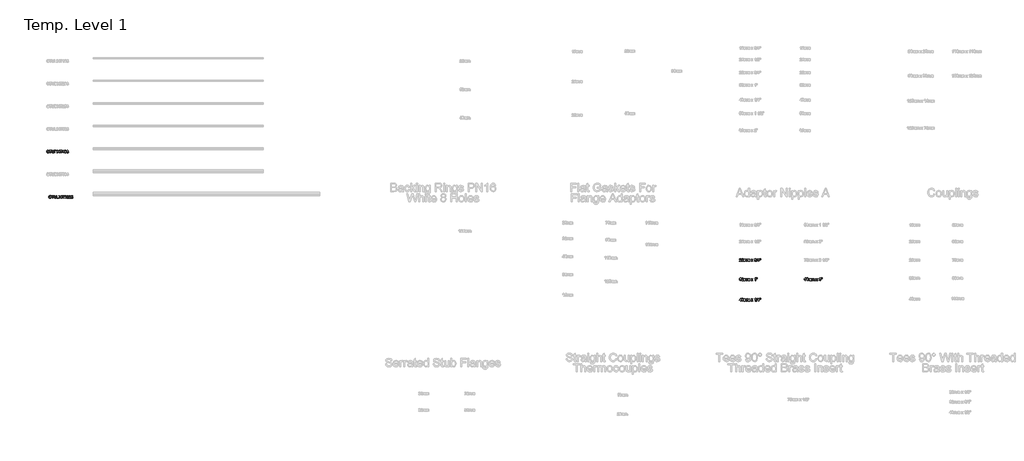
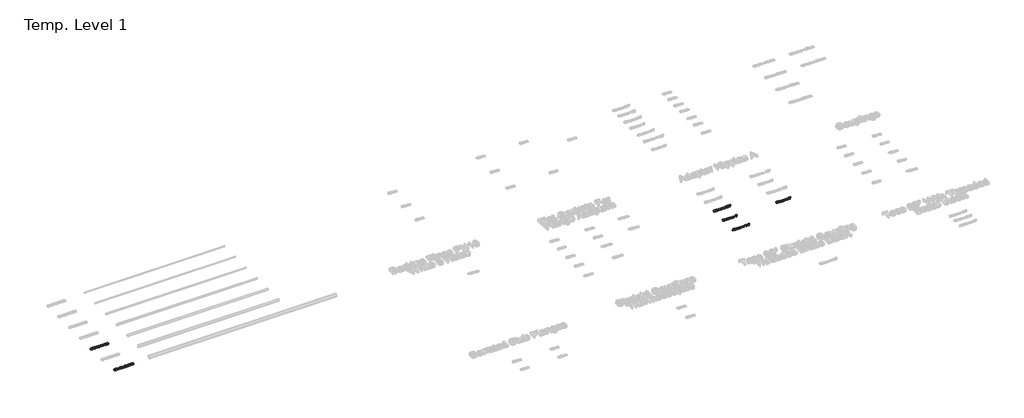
# One storey, part 6 of 62: 6 proxies.
"""IFC4 building model written with IfcOpenShell, lengths in millimetres."""

import ifcopenshell
import ifcopenshell.guid

model = None  # the IFC model being written
_history = None  # IfcOwnerHistory: only IFC2X3 demands one
_inside = {}  # id of a spatial element -> (the spatial element, [elements in it])
_under = {}  # id of a project, library or spatial element -> (it, [spatial elements below it])
_declared = {}  # id of a project -> (the project, [libraries it declares])
_typed = {}  # id of a type object -> (the type object, [elements of that type])
_made_of = {}  # id of a material, layer set ... -> (it, [elements and type objects made of it])


def new_model(schema):
    """Start an empty IFC model of exactly this schema.

    Asked for "IFC4X3", IfcOpenShell would pick the latest addendum, in which some entities
    have other attributes; the version numbers below select the first issue.
    IFC2X3 requires an IfcOwnerHistory on every rooted entity: one is made here for all.
    """
    global model, _history
    if schema == "IFC4X3":
        model = ifcopenshell.file(schema_version=(4, 3, 0, 0))
    else:
        model = ifcopenshell.file(schema=schema)
    _inside.clear()
    _under.clear()
    _declared.clear()
    _typed.clear()
    _made_of.clear()
    _history = None
    if model.schema == "IFC2X3":
        org = make("IfcOrganization", Name="unknown")
        user = make(
            "IfcPersonAndOrganization",
            ThePerson=make("IfcPerson", FamilyName="unknown"),
            TheOrganization=org,
        )
        app = make(
            "IfcApplication",
            ApplicationDeveloper=org,
            Version="unknown",
            ApplicationFullName="unknown",
            ApplicationIdentifier="unknown",
        )
        _history = make(
            "IfcOwnerHistory",
            OwningUser=user,
            OwningApplication=app,
            ChangeAction="ADDED",
            CreationDate=0,
        )
    return model


def make(cls, **values):
    """One entity of the class cls with the attributes given. An attribute that is None is left unset."""
    return model.create_entity(
        cls, **{name: value for name, value in values.items() if value is not None}
    )


def rooted(cls, **values):
    """An entity with a GlobalId (a new one), such as an element, a storey or a relation."""
    return make(cls, GlobalId=ifcopenshell.guid.new(), OwnerHistory=_history, **values)


def si_unit(unit_type, name, prefix=None):
    """IfcSIUnit, for example si_unit("LENGTHUNIT", "METRE", prefix="MILLI")."""
    return make("IfcSIUnit", UnitType=unit_type, Prefix=prefix, Name=name)


def assignment(units):
    """IfcUnitAssignment: the units of a project."""
    return None if units is None else make("IfcUnitAssignment", Units=units)


def point(xyz):
    """IfcCartesianPoint."""
    return None if xyz is None else make("IfcCartesianPoint", Coordinates=xyz)


def direction(xyz):
    """IfcDirection."""
    return None if xyz is None else make("IfcDirection", DirectionRatios=xyz)


def frame(location, z_axis=None, x_axis=None):
    """IfcAxis2Placement3D, a coordinate frame: its origin and axes. An axis left out is left unset."""
    return make(
        "IfcAxis2Placement3D",
        Location=point(location),
        Axis=direction(z_axis),
        RefDirection=direction(x_axis),
    )


def origin():
    """The frame at (0, 0, 0) with its axes left unset."""
    return frame((0.0, 0.0, 0.0))


def origin_with_axes():
    """The frame at (0, 0, 0) with the z axis (0, 0, 1) and the x axis (1, 0, 0) written out."""
    return frame((0.0, 0.0, 0.0), z_axis=(0.0, 0.0, 1.0), x_axis=(1.0, 0.0, 0.0))


def place(relative_to, where):
    """IfcLocalPlacement: puts the frame where relative to a parent placement (None: the world)."""
    return make(
        "IfcLocalPlacement", PlacementRelTo=relative_to, RelativePlacement=where
    )


def context(
    kind, dimensions, precision=None, world=None, true_north=None, identifier=None
):
    """IfcGeometricRepresentationContext, for example the 3D "Model" context."""
    return make(
        "IfcGeometricRepresentationContext",
        ContextIdentifier=identifier,
        ContextType=kind,
        CoordinateSpaceDimension=dimensions,
        Precision=precision,
        WorldCoordinateSystem=world,
        TrueNorth=true_north,
    )


def project(units=None, contexts=None):
    """IfcProject with its units and contexts."""
    return rooted(
        "IfcProject",
        Name="project",
        RepresentationContexts=contexts,
        UnitsInContext=assignment(units),
    )


def spatial(cls, under=None, at=None, **own):
    """A site, building, storey or space (cls), placed at a placement, below another one or the project."""
    s = rooted(cls, ObjectPlacement=at, **own)
    if under is not None:
        _under.setdefault(under.id(), (under, []))[1].append(s)
    return s


def polyline(points):
    """IfcPolyline through the points."""
    return make("IfcPolyline", Points=[point(p) for p in points])


def outline(outer, holes=None, kind="AREA"):
    """IfcArbitraryClosedProfileDef: a profile drawn as a closed curve; with holes, ...WithVoids."""
    if holes is None:
        return make("IfcArbitraryClosedProfileDef", ProfileType=kind, OuterCurve=outer)
    return make(
        "IfcArbitraryProfileDefWithVoids",
        ProfileType=kind,
        OuterCurve=outer,
        InnerCurves=holes,
    )


def extrude(swept, where, along, depth):
    """IfcExtrudedAreaSolid: the profile swept, set in the frame where, extruded along a direction by depth."""
    return make(
        "IfcExtrudedAreaSolid",
        SweptArea=swept,
        Position=where,
        ExtrudedDirection=direction(along),
        Depth=depth,
    )


def shape(context_of_items, identifier, shape_type, items):
    """IfcShapeRepresentation: the items that make up one representation, for example the "Body"."""
    return make(
        "IfcShapeRepresentation",
        ContextOfItems=context_of_items,
        RepresentationIdentifier=identifier,
        RepresentationType=shape_type,
        Items=items,
    )


def made_of(thing, what):
    """Note that an element or type object is made of a material, layer set ...; save() writes the relation."""
    if what is not None:
        _made_of.setdefault(what.id(), (what, []))[1].append(thing)
    return thing


def element(
    cls,
    number,
    at=None,
    inside=None,
    cuts=None,
    type_object=None,
    material=None,
    context=None,
    identifier="Body",
    shape_type=None,
    held_by="IfcProductDefinitionShape",
    body=None,
    shapes=None,
    **own,
):
    """One element of the class cls, such as IfcWall. Its Tag is "e" and its number.

    at: its placement. inside: the storey or other place that contains it. cuts: it is an
    opening in that element (IfcRelVoidsElement). A single representation is given by context,
    identifier, shape_type and body (its items); several are given by shapes. held_by: the class
    of the entity that holds the representations. save() writes the other relations.
    """
    e = rooted(cls, Tag="e%d" % number, ObjectPlacement=at, **own)
    if body is not None:
        shapes = [shape(context, identifier, shape_type, body)]
    if shapes is not None:
        e.Representation = make(held_by, Representations=shapes)
    if inside is not None:
        _inside.setdefault(inside.id(), (inside, []))[1].append(e)
    if cuts is not None:
        rooted(
            "IfcRelVoidsElement", RelatingBuildingElement=cuts, RelatedOpeningElement=e
        )
    if type_object is not None:
        _typed.setdefault(type_object.id(), (type_object, []))[1].append(e)
    return made_of(e, material)


def aggregate(whole, parts):
    """IfcRelAggregates: a whole, such as a stair, and the parts it consists of."""
    return rooted("IfcRelAggregates", RelatingObject=whole, RelatedObjects=parts)


def save(model, path):
    """Write the relations noted so far, then the file.

    IfcRelAggregates (storeys below a building ...), IfcRelContainedInSpatialStructure (elements
    in a storey), IfcRelDefinesByType, IfcRelAssociatesMaterial and IfcRelDeclares: one each for
    every whole, place, type object, material and project.
    """
    for whole, parts in _under.values():
        aggregate(whole, parts)
    for where, things in _inside.values():
        rooted(
            "IfcRelContainedInSpatialStructure",
            RelatedElements=things,
            RelatingStructure=where,
        )
    for kind, things in _typed.values():
        rooted("IfcRelDefinesByType", RelatedObjects=things, RelatingType=kind)
    for what, things in _made_of.values():
        rooted("IfcRelAssociatesMaterial", RelatedObjects=things, RelatingMaterial=what)
    for by, libraries in _declared.values():
        rooted("IfcRelDeclares", RelatingContext=by, RelatedDefinitions=libraries)
    model.write(path)


model = new_model("IFC4")

# Units and contexts
model_context = context("Model", 3, world=origin())
ifc_project = project(units=[si_unit("LENGTHUNIT", "METRE", prefix="MILLI")], contexts=[model_context])

# Site, building, storey
site = spatial("IfcSite", under=ifc_project)
building = spatial("IfcBuilding", under=site)
storey = spatial("IfcBuildingStorey", under=building, Name="Temp. Level 1", Elevation=0.0)

# Proxies
placement = place(None, origin())
element("IfcBuildingElementProxy", 1, Name="50mm Arial", ObjectType="50mm Arial", at=placement, inside=storey, context=model_context, shape_type="SweptSolid", body=[
    extrude(outline(polyline([(14682.7136124, -8204.0446709), (14682.7136124, -8210.198517), (14650.4059201, -8210.198517), (14651.0669778, -8205.9557286), (14654.8049586, -8199.4232766), (14662.5092855, -8192.2898632), (14673.1342855, -8182.0374593), (14675.7905355, -8175.0663055), (14673.2845259, -8169.4232766), (14666.7400547, -8167.1215939), (14659.9191413, -8169.3691901), (14657.3289971, -8175.5831324), (14651.1751509, -8174.8139016), (14655.892699, -8164.5134209), (14666.8722663, -8160.9677478), (14677.8878913, -8164.9100555), (14681.9443817, -8174.6937093), (14680.8506317, -8180.5290459), (14677.2148144, -8186.5626997), (14668.3987086, -8194.9941901), (14661.3193817, -8200.9136612), (14658.5429394, -8204.0446709), (14682.7136124, -8204.0446709)])), origin_with_axes(), (0.0, 0.0, 1.0), 15.0),
    extrude(outline(polyline([(14688.8674586, -8197.1215939), (14695.0213047, -8196.3523632), (14698.1222663, -8202.6925074), (14704.5525547, -8204.8139016), (14712.2689009, -8201.8631805), (14715.0213047, -8194.0326516), (14712.4431797, -8186.7249593), (14704.6487086, -8184.0446709), (14699.2460644, -8185.1143824), (14695.7905355, -8187.8908247), (14689.6366894, -8187.1215939), (14695.0213047, -8161.7369786), (14718.8674586, -8161.7369786), (14718.8674586, -8167.8908247), (14699.9972663, -8167.8908247), (14697.3650547, -8181.448517), (14706.3674586, -8177.8908247), (14716.8902951, -8182.3018824), (14721.1751509, -8193.6480362), (14717.3169778, -8205.0663055), (14711.7761124, -8209.4923872), (14704.5285163, -8210.9677478), (14693.6691413, -8207.1756805), (14688.8674586, -8197.1215939)])), origin_with_axes(), (0.0, 0.0, 1.0), 15.0),
    extrude(outline(polyline([(14728.0982278, -8210.198517), (14728.0982278, -8174.0446709), (14734.252074, -8174.0446709), (14734.252074, -8179.9941901), (14738.4828432, -8175.120392), (14744.5044778, -8173.2754401), (14750.6703432, -8175.1564497), (14754.0597663, -8180.4268824), (14758.861449, -8175.0633007), (14764.9251509, -8173.2754401), (14772.9720259, -8176.2501997), (14775.7905355, -8185.4148632), (14775.7905355, -8210.198517), (14769.6366894, -8210.198517), (14769.6366894, -8188.0590939), (14769.0657759, -8182.9208728), (14766.9984682, -8180.3908247), (14763.4828432, -8179.4292862), (14757.4311605, -8181.8932286), (14755.0213047, -8189.7898632), (14755.0213047, -8210.198517), (14748.8674586, -8210.198517), (14748.8674586, -8187.3739978), (14747.4431797, -8181.4124593), (14742.7737086, -8179.4292862), (14738.2184201, -8180.7514016), (14735.189574, -8184.6215939), (14734.252074, -8191.9653439), (14734.252074, -8210.198517), (14728.0982278, -8210.198517)])), origin_with_axes(), (0.0, 0.0, 1.0), 15.0),
    extrude(outline(polyline([(14785.0213047, -8210.198517), (14785.0213047, -8174.0446709), (14791.1751509, -8174.0446709), (14791.1751509, -8179.9941901), (14795.4059201, -8175.120392), (14801.4275547, -8173.2754401), (14807.5934201, -8175.1564497), (14810.9828432, -8180.4268824), (14815.7845259, -8175.0633007), (14821.8482278, -8173.2754401), (14829.8951028, -8176.2501997), (14832.7136124, -8185.4148632), (14832.7136124, -8210.198517), (14826.5597663, -8210.198517), (14826.5597663, -8188.0590939), (14825.9888528, -8182.9208728), (14823.9215451, -8180.3908247), (14820.4059201, -8179.4292862), (14814.3542374, -8181.8932286), (14811.9443817, -8189.7898632), (14811.9443817, -8210.198517), (14805.7905355, -8210.198517), (14805.7905355, -8187.3739978), (14804.3662567, -8181.4124593), (14799.6967855, -8179.4292862), (14795.1414971, -8180.7514016), (14792.1126509, -8184.6215939), (14791.1751509, -8191.9653439), (14791.1751509, -8210.198517), (14785.0213047, -8210.198517)])), origin_with_axes(), (0.0, 0.0, 1.0), 15.0),
    extrude(outline(polyline([(14857.3289971, -8210.198517), (14870.4780355, -8192.0254401), (14858.0982278, -8174.0446709), (14865.502074, -8174.0446709), (14871.4756317, -8182.698517), (14874.2640932, -8186.7850555), (14876.6799586, -8183.4437093), (14883.4828432, -8174.0446709), (14890.8866894, -8174.0446709), (14877.8818817, -8192.0254401), (14890.4059201, -8210.198517), (14883.002074, -8210.198517), (14875.4660163, -8199.2730362), (14874.0838047, -8197.2778439), (14864.7328432, -8210.198517), (14857.3289971, -8210.198517)])), origin_with_axes(), (0.0, 0.0, 1.0), 15.0),
    extrude(outline(polyline([(14913.4828432, -8197.1215939), (14919.6366894, -8196.3523632), (14923.0321221, -8202.8307286), (14929.3842855, -8204.8139016), (14936.8602471, -8202.0855362), (14939.6366894, -8195.3307286), (14936.8842855, -8188.9665459), (14929.8890932, -8186.448517), (14925.5741894, -8187.1215939), (14926.2592855, -8180.9677478), (14934.2280355, -8179.2730362), (14937.3289971, -8173.8403439), (14935.0814009, -8169.026642), (14929.2881317, -8167.1215939), (14923.4227471, -8169.0446709), (14920.4059201, -8174.8139016), (14914.252074, -8174.0446709), (14919.2881317, -8164.3932286), (14929.0717855, -8160.9677478), (14936.4936605, -8162.6564497), (14941.6859682, -8167.2718343), (14943.4828432, -8173.479767), (14941.7761124, -8179.1528439), (14936.7280355, -8183.2273632), (14943.4347663, -8187.4340939), (14945.7905355, -8195.4389016), (14941.0789971, -8206.448517), (14929.1679394, -8210.9677478), (14918.3746701, -8207.1095747), (14913.4828432, -8197.1215939)])), origin_with_axes(), (0.0, 0.0, 1.0), 15.0),
    extrude(outline(polyline([(14948.0982278, -8210.198517), (14961.9443817, -8160.9677478), (14967.4972663, -8160.9677478), (14953.6511124, -8210.198517), (14948.0982278, -8210.198517)])), origin_with_axes(), (0.0, 0.0, 1.0), 15.0),
    extrude(outline(polyline([(14990.4059201, -8210.198517), (14990.4059201, -8198.6600555), (14968.0982278, -8198.6600555), (14968.0982278, -8192.5062093), (14991.9443817, -8161.7369786), (14996.5597663, -8161.7369786), (14996.5597663, -8192.5062093), (15002.7136124, -8192.5062093), (15002.7136124, -8198.6600555), (14996.5597663, -8198.6600555), (14996.5597663, -8210.198517), (14990.4059201, -8210.198517)]), holes=[polyline([(14990.4059201, -8192.5062093), (14990.4059201, -8173.4917862), (14975.6703432, -8192.5062093), (14990.4059201, -8192.5062093)])]), origin_with_axes(), (0.0, 0.0, 1.0), 15.0),
    extrude(outline(polyline([(15021.8722663, -8178.6600555), (15020.4059201, -8169.1528439), (15020.4059201, -8160.9677478), (15026.5597663, -8160.9677478), (15026.5597663, -8169.1528439), (15025.1174586, -8178.6600555), (15021.8722663, -8178.6600555)])), origin_with_axes(), (0.0, 0.0, 1.0), 15.0),
    extrude(outline(polyline([(15009.6006317, -8178.6600555), (15008.0982278, -8169.1528439), (15008.0982278, -8160.9677478), (15014.252074, -8160.9677478), (15014.252074, -8169.1528439), (15012.9059201, -8178.6600555), (15009.6006317, -8178.6600555)])), origin_with_axes(), (0.0, 0.0, 1.0), 15.0),
])
element("IfcBuildingElementProxy", 2, Name="50mm Arial", ObjectType="50mm Arial", at=placement, inside=storey, context=model_context, shape_type="SweptSolid", body=[
    extrude(outline(polyline([(14651.1751509, -8537.1215939), (14657.3289971, -8536.3523632), (14660.7244297, -8542.8307286), (14667.0765932, -8544.8139016), (14674.5525547, -8542.0855362), (14677.3289971, -8535.3307286), (14674.5765932, -8528.9665459), (14667.5814009, -8526.448517), (14663.2664971, -8527.1215939), (14663.9515932, -8520.9677478), (14671.9203432, -8519.2730362), (14675.0213047, -8513.8403439), (14672.7737086, -8509.026642), (14666.9804394, -8507.1215939), (14661.1150547, -8509.0446709), (14658.0982278, -8514.8139016), (14651.9443817, -8514.0446709), (14656.9804394, -8504.3932286), (14666.7640932, -8500.9677478), (14674.1859682, -8502.6564497), (14679.3782759, -8507.2718343), (14681.1751509, -8513.479767), (14679.4684201, -8519.1528439), (14674.4203432, -8523.2273632), (14681.127074, -8527.4340939), (14683.4828432, -8535.4389016), (14678.7713047, -8546.448517), (14666.8602471, -8550.9677478), (14656.0669778, -8547.1095747), (14651.1751509, -8537.1215939)])), origin_with_axes(), (0.0, 0.0, 1.0), 15.0),
    extrude(outline(polyline([(14720.4059201, -8544.0446709), (14720.4059201, -8550.198517), (14688.0982278, -8550.198517), (14688.7592855, -8545.9557286), (14692.4972663, -8539.4232766), (14700.2015932, -8532.2898632), (14710.8265932, -8522.0374593), (14713.4828432, -8515.0663055), (14710.9768336, -8509.4232766), (14704.4323624, -8507.1215939), (14697.611449, -8509.3691901), (14695.0213047, -8515.5831324), (14688.8674586, -8514.8139016), (14693.5850067, -8504.5134209), (14704.564574, -8500.9677478), (14715.580199, -8504.9100555), (14719.6366894, -8514.6937093), (14718.5429394, -8520.5290459), (14714.9071221, -8526.5626997), (14706.0910163, -8534.9941901), (14699.0116894, -8540.9136612), (14696.2352471, -8544.0446709), (14720.4059201, -8544.0446709)])), origin_with_axes(), (0.0, 0.0, 1.0), 15.0),
    extrude(outline(polyline([(14728.0982278, -8550.198517), (14728.0982278, -8514.0446709), (14734.252074, -8514.0446709), (14734.252074, -8519.9941901), (14738.4828432, -8515.120392), (14744.5044778, -8513.2754401), (14750.6703432, -8515.1564497), (14754.0597663, -8520.4268824), (14758.861449, -8515.0633007), (14764.9251509, -8513.2754401), (14772.9720259, -8516.2501997), (14775.7905355, -8525.4148632), (14775.7905355, -8550.198517), (14769.6366894, -8550.198517), (14769.6366894, -8528.0590939), (14769.0657759, -8522.9208728), (14766.9984682, -8520.3908247), (14763.4828432, -8519.4292862), (14757.4311605, -8521.8932286), (14755.0213047, -8529.7898632), (14755.0213047, -8550.198517), (14748.8674586, -8550.198517), (14748.8674586, -8527.3739978), (14747.4431797, -8521.4124593), (14742.7737086, -8519.4292862), (14738.2184201, -8520.7514016), (14735.189574, -8524.6215939), (14734.252074, -8531.9653439), (14734.252074, -8550.198517), (14728.0982278, -8550.198517)])), origin_with_axes(), (0.0, 0.0, 1.0), 15.0),
    extrude(outline(polyline([(14785.0213047, -8550.198517), (14785.0213047, -8514.0446709), (14791.1751509, -8514.0446709), (14791.1751509, -8519.9941901), (14795.4059201, -8515.120392), (14801.4275547, -8513.2754401), (14807.5934201, -8515.1564497), (14810.9828432, -8520.4268824), (14815.7845259, -8515.0633007), (14821.8482278, -8513.2754401), (14829.8951028, -8516.2501997), (14832.7136124, -8525.4148632), (14832.7136124, -8550.198517), (14826.5597663, -8550.198517), (14826.5597663, -8528.0590939), (14825.9888528, -8522.9208728), (14823.9215451, -8520.3908247), (14820.4059201, -8519.4292862), (14814.3542374, -8521.8932286), (14811.9443817, -8529.7898632), (14811.9443817, -8550.198517), (14805.7905355, -8550.198517), (14805.7905355, -8527.3739978), (14804.3662567, -8521.4124593), (14799.6967855, -8519.4292862), (14795.1414971, -8520.7514016), (14792.1126509, -8524.6215939), (14791.1751509, -8531.9653439), (14791.1751509, -8550.198517), (14785.0213047, -8550.198517)])), origin_with_axes(), (0.0, 0.0, 1.0), 15.0),
    extrude(outline(polyline([(14857.3289971, -8550.198517), (14870.4780355, -8532.0254401), (14858.0982278, -8514.0446709), (14865.502074, -8514.0446709), (14871.4756317, -8522.698517), (14874.2640932, -8526.7850555), (14876.6799586, -8523.4437093), (14883.4828432, -8514.0446709), (14890.8866894, -8514.0446709), (14877.8818817, -8532.0254401), (14890.4059201, -8550.198517), (14883.002074, -8550.198517), (14875.4660163, -8539.2730362), (14874.0838047, -8537.2778439), (14864.7328432, -8550.198517), (14857.3289971, -8550.198517)])), origin_with_axes(), (0.0, 0.0, 1.0), 15.0),
    extrude(outline(polyline([(14936.5597663, -8550.198517), (14930.4059201, -8550.198517), (14930.4059201, -8511.8331324), (14924.5765932, -8515.9857766), (14918.0982278, -8519.0927478), (14918.0982278, -8513.2754401), (14927.1186605, -8507.5182286), (14932.5934201, -8500.9677478), (14936.5597663, -8500.9677478), (14936.5597663, -8550.198517)])), origin_with_axes(), (0.0, 0.0, 1.0), 15.0),
    extrude(outline(polyline([(14952.6775547, -8518.6600555), (14951.1751509, -8509.1528439), (14951.1751509, -8500.9677478), (14957.3289971, -8500.9677478), (14957.3289971, -8509.1528439), (14955.9828432, -8518.6600555), (14952.6775547, -8518.6600555)])), origin_with_axes(), (0.0, 0.0, 1.0), 15.0),
    extrude(outline(polyline([(14964.9491894, -8518.6600555), (14963.4828432, -8509.1528439), (14963.4828432, -8500.9677478), (14969.6366894, -8500.9677478), (14969.6366894, -8509.1528439), (14968.1943817, -8518.6600555), (14964.9491894, -8518.6600555)])), origin_with_axes(), (0.0, 0.0, 1.0), 15.0),
])
element("IfcBuildingElementProxy", 3, Name="50mm Arial", ObjectType="50mm Arial", at=placement, inside=storey, context=model_context, shape_type="SweptSolid", body=[
    extrude(outline(polyline([(14671.1751509, -8910.198517), (14671.1751509, -8898.6600555), (14648.8674586, -8898.6600555), (14648.8674586, -8892.5062093), (14672.7136124, -8861.7369786), (14677.3289971, -8861.7369786), (14677.3289971, -8892.5062093), (14683.4828432, -8892.5062093), (14683.4828432, -8898.6600555), (14677.3289971, -8898.6600555), (14677.3289971, -8910.198517), (14671.1751509, -8910.198517)]), holes=[polyline([(14671.1751509, -8892.5062093), (14671.1751509, -8873.4917862), (14656.439574, -8892.5062093), (14671.1751509, -8892.5062093)])]), origin_with_axes(), (0.0, 0.0, 1.0), 15.0),
    extrude(outline(polyline([(14688.8674586, -8885.979767), (14690.6763528, -8871.8151036), (14696.048949, -8863.6480362), (14705.0213047, -8860.9677478), (14712.2088047, -8862.5542862), (14717.1727471, -8867.1276036), (14720.0573624, -8874.4112574), (14721.1751509, -8885.979767), (14719.3842855, -8900.0843343), (14714.0297182, -8908.2694305), (14705.0213047, -8910.9677478), (14693.7713047, -8906.2802478), (14690.0934201, -8897.9539257), (14688.8674586, -8885.979767)]), holes=[polyline([(14695.0213047, -8885.9677478), (14697.9059201, -8901.2501997), (14705.0213047, -8904.8139016), (14712.1366894, -8901.2381805), (14715.0213047, -8885.9677478), (14712.2328432, -8870.8595747), (14704.9491894, -8867.1215939), (14698.002074, -8870.4148632), (14695.0213047, -8885.9677478)])]), origin_with_axes(), (0.0, 0.0, 1.0), 15.0),
    extrude(outline(polyline([(14728.0982278, -8910.198517), (14728.0982278, -8874.0446709), (14734.252074, -8874.0446709), (14734.252074, -8879.9941901), (14738.4828432, -8875.120392), (14744.5044778, -8873.2754401), (14750.6703432, -8875.1564497), (14754.0597663, -8880.4268824), (14758.861449, -8875.0633007), (14764.9251509, -8873.2754401), (14772.9720259, -8876.2501997), (14775.7905355, -8885.4148632), (14775.7905355, -8910.198517), (14769.6366894, -8910.198517), (14769.6366894, -8888.0590939), (14769.0657759, -8882.9208728), (14766.9984682, -8880.3908247), (14763.4828432, -8879.4292862), (14757.4311605, -8881.8932286), (14755.0213047, -8889.7898632), (14755.0213047, -8910.198517), (14748.8674586, -8910.198517), (14748.8674586, -8887.3739978), (14747.4431797, -8881.4124593), (14742.7737086, -8879.4292862), (14738.2184201, -8880.7514016), (14735.189574, -8884.6215939), (14734.252074, -8891.9653439), (14734.252074, -8910.198517), (14728.0982278, -8910.198517)])), origin_with_axes(), (0.0, 0.0, 1.0), 15.0),
    extrude(outline(polyline([(14785.0213047, -8910.198517), (14785.0213047, -8874.0446709), (14791.1751509, -8874.0446709), (14791.1751509, -8879.9941901), (14795.4059201, -8875.120392), (14801.4275547, -8873.2754401), (14807.5934201, -8875.1564497), (14810.9828432, -8880.4268824), (14815.7845259, -8875.0633007), (14821.8482278, -8873.2754401), (14829.8951028, -8876.2501997), (14832.7136124, -8885.4148632), (14832.7136124, -8910.198517), (14826.5597663, -8910.198517), (14826.5597663, -8888.0590939), (14825.9888528, -8882.9208728), (14823.9215451, -8880.3908247), (14820.4059201, -8879.4292862), (14814.3542374, -8881.8932286), (14811.9443817, -8889.7898632), (14811.9443817, -8910.198517), (14805.7905355, -8910.198517), (14805.7905355, -8887.3739978), (14804.3662567, -8881.4124593), (14799.6967855, -8879.4292862), (14795.1414971, -8880.7514016), (14792.1126509, -8884.6215939), (14791.1751509, -8891.9653439), (14791.1751509, -8910.198517), (14785.0213047, -8910.198517)])), origin_with_axes(), (0.0, 0.0, 1.0), 15.0),
    extrude(outline(polyline([(14857.3289971, -8910.198517), (14870.4780355, -8892.0254401), (14858.0982278, -8874.0446709), (14865.502074, -8874.0446709), (14871.4756317, -8882.698517), (14874.2640932, -8886.7850555), (14876.6799586, -8883.4437093), (14883.4828432, -8874.0446709), (14890.8866894, -8874.0446709), (14877.8818817, -8892.0254401), (14890.4059201, -8910.198517), (14883.002074, -8910.198517), (14875.4660163, -8899.2730362), (14874.0838047, -8897.2778439), (14864.7328432, -8910.198517), (14857.3289971, -8910.198517)])), origin_with_axes(), (0.0, 0.0, 1.0), 15.0),
    extrude(outline(polyline([(14936.5597663, -8910.198517), (14930.4059201, -8910.198517), (14930.4059201, -8871.8331324), (14924.5765932, -8875.9857766), (14918.0982278, -8879.0927478), (14918.0982278, -8873.2754401), (14927.1186605, -8867.5182286), (14932.5934201, -8860.9677478), (14936.5597663, -8860.9677478), (14936.5597663, -8910.198517)])), origin_with_axes(), (0.0, 0.0, 1.0), 15.0),
    extrude(outline(polyline([(14948.0982278, -8910.198517), (14961.9443817, -8860.9677478), (14967.4972663, -8860.9677478), (14953.6511124, -8910.198517), (14948.0982278, -8910.198517)])), origin_with_axes(), (0.0, 0.0, 1.0), 15.0),
    extrude(outline(polyline([(14990.4059201, -8910.198517), (14990.4059201, -8898.6600555), (14968.0982278, -8898.6600555), (14968.0982278, -8892.5062093), (14991.9443817, -8861.7369786), (14996.5597663, -8861.7369786), (14996.5597663, -8892.5062093), (15002.7136124, -8892.5062093), (15002.7136124, -8898.6600555), (14996.5597663, -8898.6600555), (14996.5597663, -8910.198517), (14990.4059201, -8910.198517)]), holes=[polyline([(14990.4059201, -8892.5062093), (14990.4059201, -8873.4917862), (14975.6703432, -8892.5062093), (14990.4059201, -8892.5062093)])]), origin_with_axes(), (0.0, 0.0, 1.0), 15.0),
    extrude(outline(polyline([(15021.8722663, -8878.6600555), (15020.4059201, -8869.1528439), (15020.4059201, -8860.9677478), (15026.5597663, -8860.9677478), (15026.5597663, -8869.1528439), (15025.1174586, -8878.6600555), (15021.8722663, -8878.6600555)])), origin_with_axes(), (0.0, 0.0, 1.0), 15.0),
    extrude(outline(polyline([(15009.6006317, -8878.6600555), (15008.0982278, -8869.1528439), (15008.0982278, -8860.9677478), (15014.252074, -8860.9677478), (15014.252074, -8869.1528439), (15012.9059201, -8878.6600555), (15009.6006317, -8878.6600555)])), origin_with_axes(), (0.0, 0.0, 1.0), 15.0),
])
element("IfcBuildingElementProxy", 4, Name="50mm Arial", ObjectType="50mm Arial", at=placement, inside=storey, context=model_context, shape_type="SweptSolid", body=[
    extrude(outline(polyline([(15796.5700795, -8537.8908247), (15802.7239256, -8537.1215939), (15805.4883487, -8542.9929882), (15810.7287333, -8544.8139016), (15815.7107045, -8543.6420266), (15819.0881083, -8540.511017), (15821.1013295, -8535.1624593), (15821.9907525, -8528.0230362), (15817.0328198, -8531.4845747), (15810.2840218, -8533.2754401), (15800.0015698, -8528.9004401), (15795.8008487, -8517.3739978), (15800.2058968, -8505.4749593), (15811.2455602, -8500.9677478), (15820.0135891, -8503.5398632), (15826.0472429, -8510.8715939), (15828.108541, -8524.6456324), (15826.0532525, -8539.5915459), (15819.9414737, -8548.0590939), (15810.4402718, -8550.9677478), (15800.9811371, -8547.5362574), (15796.5700795, -8537.8908247)]), holes=[polyline([(15821.9546948, -8517.229767), (15819.2984448, -8509.8499593), (15812.2431564, -8507.1215939), (15804.8393102, -8510.0602959), (15801.9546948, -8517.6744786), (15804.6830602, -8524.495392), (15812.0748871, -8527.1215939), (15819.1722429, -8524.495392), (15821.9546948, -8517.229767)])]), origin_with_axes(), (0.0, 0.0, 1.0), 15.0),
    extrude(outline(polyline([(15833.4931564, -8525.979767), (15835.3020506, -8511.8151036), (15840.6746468, -8503.6480362), (15849.6470025, -8500.9677478), (15856.8345025, -8502.5542862), (15861.7984448, -8507.1276036), (15864.6830602, -8514.4112574), (15865.8008487, -8525.979767), (15864.0099833, -8540.0843343), (15858.655416, -8548.2694305), (15849.6470025, -8550.9677478), (15838.3970025, -8546.2802478), (15834.7191179, -8537.9539257), (15833.4931564, -8525.979767)]), holes=[polyline([(15839.6470025, -8525.9677478), (15842.5316179, -8541.2501997), (15849.6470025, -8544.8139016), (15856.7623871, -8541.2381805), (15859.6470025, -8525.9677478), (15856.858541, -8510.8595747), (15849.5748871, -8507.1215939), (15842.6277718, -8510.4148632), (15839.6470025, -8525.9677478)])]), origin_with_axes(), (0.0, 0.0, 1.0), 15.0),
    extrude(outline(polyline([(15872.7239256, -8550.198517), (15872.7239256, -8514.0446709), (15878.8777718, -8514.0446709), (15878.8777718, -8519.9941901), (15883.108541, -8515.120392), (15889.1301756, -8513.2754401), (15895.296041, -8515.1564497), (15898.6854641, -8520.4268824), (15903.4871468, -8515.0633007), (15909.5508487, -8513.2754401), (15917.5977237, -8516.2501997), (15920.4162333, -8525.4148632), (15920.4162333, -8550.198517), (15914.2623871, -8550.198517), (15914.2623871, -8528.0590939), (15913.6914737, -8522.9208728), (15911.624166, -8520.3908247), (15908.108541, -8519.4292862), (15902.0568583, -8521.8932286), (15899.6470025, -8529.7898632), (15899.6470025, -8550.198517), (15893.4931564, -8550.198517), (15893.4931564, -8527.3739978), (15892.0688775, -8521.4124593), (15887.3994064, -8519.4292862), (15882.8441179, -8520.7514016), (15879.8152718, -8524.6215939), (15878.8777718, -8531.9653439), (15878.8777718, -8550.198517), (15872.7239256, -8550.198517)])), origin_with_axes(), (0.0, 0.0, 1.0), 15.0),
    extrude(outline(polyline([(15929.6470025, -8550.198517), (15929.6470025, -8514.0446709), (15935.8008487, -8514.0446709), (15935.8008487, -8519.9941901), (15940.0316179, -8515.120392), (15946.0532525, -8513.2754401), (15952.2191179, -8515.1564497), (15955.608541, -8520.4268824), (15960.4102237, -8515.0633007), (15966.4739256, -8513.2754401), (15974.5208006, -8516.2501997), (15977.3393102, -8525.4148632), (15977.3393102, -8550.198517), (15971.1854641, -8550.198517), (15971.1854641, -8528.0590939), (15970.6145506, -8522.9208728), (15968.5472429, -8520.3908247), (15965.0316179, -8519.4292862), (15958.9799352, -8521.8932286), (15956.5700795, -8529.7898632), (15956.5700795, -8550.198517), (15950.4162333, -8550.198517), (15950.4162333, -8527.3739978), (15948.9919545, -8521.4124593), (15944.3224833, -8519.4292862), (15939.7671948, -8520.7514016), (15936.7383487, -8524.6215939), (15935.8008487, -8531.9653439), (15935.8008487, -8550.198517), (15929.6470025, -8550.198517)])), origin_with_axes(), (0.0, 0.0, 1.0), 15.0),
    extrude(outline(polyline([(16001.9546948, -8550.198517), (16015.1037333, -8532.0254401), (16002.7239256, -8514.0446709), (16010.1277718, -8514.0446709), (16016.1013295, -8522.698517), (16018.889791, -8526.7850555), (16021.3056564, -8523.4437093), (16028.108541, -8514.0446709), (16035.5123871, -8514.0446709), (16022.5075795, -8532.0254401), (16035.0316179, -8550.198517), (16027.6277718, -8550.198517), (16020.0917141, -8539.2730362), (16018.7095025, -8537.2778439), (16009.358541, -8550.198517), (16001.9546948, -8550.198517)])), origin_with_axes(), (0.0, 0.0, 1.0), 15.0),
    extrude(outline(polyline([(16058.108541, -8537.1215939), (16064.2623871, -8536.3523632), (16067.6578198, -8542.8307286), (16074.0099833, -8544.8139016), (16081.4859448, -8542.0855362), (16084.2623871, -8535.3307286), (16081.5099833, -8528.9665459), (16074.514791, -8526.448517), (16070.1998871, -8527.1215939), (16070.8849833, -8520.9677478), (16078.8537333, -8519.2730362), (16081.9546948, -8513.8403439), (16079.7070987, -8509.026642), (16073.9138295, -8507.1215939), (16068.0484448, -8509.0446709), (16065.0316179, -8514.8139016), (16058.8777718, -8514.0446709), (16063.9138295, -8504.3932286), (16073.6974833, -8500.9677478), (16081.1193583, -8502.6564497), (16086.311666, -8507.2718343), (16088.108541, -8513.479767), (16086.4018102, -8519.1528439), (16081.3537333, -8523.2273632), (16088.0604641, -8527.4340939), (16090.4162333, -8535.4389016), (16085.7046948, -8546.448517), (16073.7936371, -8550.9677478), (16063.0003679, -8547.1095747), (16058.108541, -8537.1215939)])), origin_with_axes(), (0.0, 0.0, 1.0), 15.0),
    extrude(outline(polyline([(16097.3032525, -8518.6600555), (16095.8008487, -8509.1528439), (16095.8008487, -8500.9677478), (16101.9546948, -8500.9677478), (16101.9546948, -8509.1528439), (16100.608541, -8518.6600555), (16097.3032525, -8518.6600555)])), origin_with_axes(), (0.0, 0.0, 1.0), 15.0),
    extrude(outline(polyline([(16109.5748871, -8518.6600555), (16108.108541, -8509.1528439), (16108.108541, -8500.9677478), (16114.2623871, -8500.9677478), (16114.2623871, -8509.1528439), (16112.8200795, -8518.6600555), (16109.5748871, -8518.6600555)])), origin_with_axes(), (0.0, 0.0, 1.0), 15.0),
])
element("IfcBuildingElementProxy", 5, Name="50mm Arial", ObjectType="50mm Arial", at=placement, inside=storey, context=model_context, shape_type="SweptSolid", body=[
    extrude(outline(polyline([(2446.7141386, -6278.4984888), (2446.7141386, -6272.3446426), (2466.7141386, -6272.3446426), (2466.7141386, -6290.7460849), (2456.8403406, -6296.5513734), (2446.4016386, -6298.4984888), (2433.2586098, -6295.4035368), (2424.3403406, -6286.4432003), (2421.3295233, -6273.354258), (2424.3283213, -6259.9708445), (2432.9521194, -6250.7460849), (2445.9088502, -6247.729258), (2455.536254, -6249.4780561), (2462.2850521, -6254.3458445), (2466.005004, -6262.4888734), (2460.3319271, -6264.0874311), (2457.5254367, -6258.3963253), (2452.7297636, -6255.1150753), (2445.8126963, -6253.8831042), (2437.9340906, -6255.2112292), (2432.5735136, -6258.6968061), (2429.4064463, -6263.4383926), (2427.4833694, -6273.1018542), (2429.7970713, -6283.8290176), (2436.5278406, -6290.2472868), (2445.9088502, -6292.3446426), (2454.3283213, -6290.7641138), (2460.5602925, -6287.3927195), (2460.5602925, -6278.4984888), (2446.7141386, -6278.4984888)])), origin_with_axes(), (0.0, 0.0, 1.0), 15.0),
    extrude(outline(polyline([(2489.0218309, -6297.729258), (2489.0218309, -6254.6523349), (2472.8679848, -6254.6523349), (2472.8679848, -6248.4984888), (2511.3295233, -6248.4984888), (2511.3295233, -6254.6523349), (2495.1756771, -6254.6523349), (2495.1756771, -6297.729258), (2489.0218309, -6297.729258)])), origin_with_axes(), (0.0, 0.0, 1.0), 15.0),
    extrude(outline(polyline([(2550.5602925, -6248.4984888), (2556.7141386, -6248.4984888), (2556.7141386, -6276.8999311), (2555.0434656, -6288.6727676), (2549.0218309, -6295.7641138), (2537.6035617, -6298.4984888), (2526.3595713, -6296.1186811), (2520.1215906, -6289.2256522), (2518.2526002, -6276.8999311), (2518.2526002, -6248.4984888), (2524.4064463, -6248.4984888), (2524.4064463, -6276.6835849), (2525.6203886, -6286.0645945), (2529.7910617, -6290.7100272), (2537.0266386, -6292.3446426), (2547.4473117, -6289.1114695), (2550.5602925, -6276.6835849), (2550.5602925, -6248.4984888)])), origin_with_axes(), (0.0, 0.0, 1.0), 15.0),
    extrude(outline(polyline([(2567.4833694, -6297.729258), (2567.4833694, -6248.4984888), (2586.2694271, -6248.4984888), (2595.4701483, -6249.9468061), (2600.9028406, -6254.3999311), (2602.8679848, -6260.698008), (2601.2153406, -6266.4492099), (2596.2213502, -6270.8061811), (2602.2850521, -6275.3975272), (2604.4064463, -6283.0537772), (2602.958129, -6289.6703638), (2599.3703886, -6294.3819022), (2594.0158213, -6296.8819022), (2586.1251963, -6297.729258), (2567.4833694, -6297.729258)]), holes=[polyline([(2573.6372156, -6291.5754118), (2586.2574079, -6291.5754118), (2590.8247156, -6291.3350272), (2594.6888983, -6289.994883), (2597.2489944, -6287.260508), (2598.2526002, -6283.1138734), (2597.0747156, -6278.3302195), (2593.2586098, -6275.4756522), (2585.6564463, -6274.6523349), (2573.6372156, -6274.6523349), (2573.6372156, -6291.5754118)]), polyline([(2573.6372156, -6268.4984888), (2584.8751963, -6268.4984888), (2591.4376963, -6267.9696426), (2595.3860136, -6265.6919984), (2596.7141386, -6261.6835849), (2595.4761579, -6257.6691618), (2591.9304848, -6255.2953638), (2584.0218309, -6254.6523349), (2573.6372156, -6254.6523349), (2573.6372156, -6268.4984888)])]), origin_with_axes(), (0.0, 0.0, 1.0), 15.0),
    extrude(outline(polyline([(2612.8679848, -6297.729258), (2612.8679848, -6248.4984888), (2619.0218309, -6248.4984888), (2619.0218309, -6268.4984888), (2645.1756771, -6268.4984888), (2645.1756771, -6248.4984888), (2651.3295233, -6248.4984888), (2651.3295233, -6297.729258), (2645.1756771, -6297.729258), (2645.1756771, -6274.6523349), (2619.0218309, -6274.6523349), (2619.0218309, -6297.729258), (2612.8679848, -6297.729258)])), origin_with_axes(), (0.0, 0.0, 1.0), 15.0),
    extrude(outline(polyline([(2674.4064463, -6297.729258), (2674.4064463, -6254.6523349), (2658.2526002, -6254.6523349), (2658.2526002, -6248.4984888), (2696.7141386, -6248.4984888), (2696.7141386, -6254.6523349), (2680.5602925, -6254.6523349), (2680.5602925, -6297.729258), (2674.4064463, -6297.729258)])), origin_with_axes(), (0.0, 0.0, 1.0), 15.0),
    extrude(outline(polyline([(2721.3295233, -6297.729258), (2721.3295233, -6286.1907965), (2699.0218309, -6286.1907965), (2699.0218309, -6280.0369503), (2722.8679848, -6249.2677195), (2727.4833694, -6249.2677195), (2727.4833694, -6280.0369503), (2733.6372156, -6280.0369503), (2733.6372156, -6286.1907965), (2727.4833694, -6286.1907965), (2727.4833694, -6297.729258), (2721.3295233, -6297.729258)]), holes=[polyline([(2721.3295233, -6280.0369503), (2721.3295233, -6261.0225272), (2706.5939463, -6280.0369503), (2721.3295233, -6280.0369503)])]), origin_with_axes(), (0.0, 0.0, 1.0), 15.0),
    extrude(outline(polyline([(2739.0218309, -6273.510508), (2740.8307252, -6259.3458445), (2746.2033213, -6251.1787772), (2755.1756771, -6248.4984888), (2762.3631771, -6250.0850272), (2767.3271194, -6254.6583445), (2770.2117348, -6261.9419984), (2771.3295233, -6273.510508), (2769.5386579, -6287.6150753), (2764.1840906, -6295.8001715), (2755.1756771, -6298.4984888), (2743.9256771, -6293.8109888), (2740.2477925, -6285.4846667), (2739.0218309, -6273.510508)]), holes=[polyline([(2745.1756771, -6273.4984888), (2748.0602925, -6288.7809407), (2755.1756771, -6292.3446426), (2762.2910617, -6288.7689215), (2765.1756771, -6273.4984888), (2762.3872156, -6258.3903157), (2755.1035617, -6254.6523349), (2748.1564463, -6257.9456042), (2745.1756771, -6273.4984888)])]), origin_with_axes(), (0.0, 0.0, 1.0), 15.0),
    extrude(outline(polyline([(2776.7141386, -6284.6523349), (2782.8679848, -6283.8831042), (2786.2634175, -6290.3614695), (2792.6155809, -6292.3446426), (2800.0915425, -6289.6162772), (2802.8679848, -6282.8614695), (2800.1155809, -6276.4972868), (2793.1203886, -6273.979258), (2788.8054848, -6274.6523349), (2789.4905809, -6268.4984888), (2797.4593309, -6266.8037772), (2800.5602925, -6261.3710849), (2798.3126963, -6256.557383), (2792.5194271, -6254.6523349), (2786.6540425, -6256.5754118), (2783.6372156, -6262.3446426), (2777.4833694, -6261.5754118), (2782.5194271, -6251.9239695), (2792.3030809, -6248.4984888), (2799.7249559, -6250.1871907), (2804.9172636, -6254.8025753), (2806.7141386, -6261.010508), (2805.0074079, -6266.6835849), (2799.9593309, -6270.7581042), (2806.6660617, -6274.9648349), (2809.0218309, -6282.9696426), (2804.3102925, -6293.979258), (2792.3992348, -6298.4984888), (2781.6059656, -6294.6403157), (2776.7141386, -6284.6523349)])), origin_with_axes(), (0.0, 0.0, 1.0), 15.0),
])
element("IfcBuildingElementProxy", 6, Name="50mm Arial", ObjectType="50mm Arial", at=placement, inside=storey, context=model_context, shape_type="SweptSolid", body=[
    extrude(outline(polyline([(2484.4064463, -7078.4984888), (2484.4064463, -7072.3446426), (2504.4064463, -7072.3446426), (2504.4064463, -7090.7460849), (2494.5326483, -7096.5513734), (2484.0939463, -7098.4984888), (2470.9509175, -7095.4035368), (2462.0326483, -7086.4432003), (2459.0218309, -7073.354258), (2462.020629, -7059.9708445), (2470.6444271, -7050.7460849), (2483.6011579, -7047.729258), (2493.2285617, -7049.4780561), (2499.9773598, -7054.3458445), (2503.6973117, -7062.4888734), (2498.0242348, -7064.0874311), (2495.2177444, -7058.3963253), (2490.4220713, -7055.1150753), (2483.505004, -7053.8831042), (2475.6263983, -7055.2112292), (2470.2658213, -7058.6968061), (2467.098754, -7063.4383926), (2465.1756771, -7073.1018542), (2467.489379, -7083.8290176), (2474.2201483, -7090.2472868), (2483.6011579, -7092.3446426), (2492.020629, -7090.7641138), (2498.2526002, -7087.3927195), (2498.2526002, -7078.4984888), (2484.4064463, -7078.4984888)])), origin_with_axes(), (0.0, 0.0, 1.0), 15.0),
    extrude(outline(polyline([(2526.7141386, -7097.729258), (2526.7141386, -7054.6523349), (2510.5602925, -7054.6523349), (2510.5602925, -7048.4984888), (2549.0218309, -7048.4984888), (2549.0218309, -7054.6523349), (2532.8679848, -7054.6523349), (2532.8679848, -7097.729258), (2526.7141386, -7097.729258)])), origin_with_axes(), (0.0, 0.0, 1.0), 15.0),
    extrude(outline(polyline([(2588.2526002, -7048.4984888), (2594.4064463, -7048.4984888), (2594.4064463, -7076.8999311), (2592.7357733, -7088.6727676), (2586.7141386, -7095.7641138), (2575.2958694, -7098.4984888), (2564.051879, -7096.1186811), (2557.8138983, -7089.2256522), (2555.9449079, -7076.8999311), (2555.9449079, -7048.4984888), (2562.098754, -7048.4984888), (2562.098754, -7076.6835849), (2563.3126963, -7086.0645945), (2567.4833694, -7090.7100272), (2574.7189463, -7092.3446426), (2585.1396194, -7089.1114695), (2588.2526002, -7076.6835849), (2588.2526002, -7048.4984888)])), origin_with_axes(), (0.0, 0.0, 1.0), 15.0),
    extrude(outline(polyline([(2605.1756771, -7097.729258), (2605.1756771, -7048.4984888), (2623.9617348, -7048.4984888), (2633.1624559, -7049.9468061), (2638.5951483, -7054.3999311), (2640.5602925, -7060.698008), (2638.9076483, -7066.4492099), (2633.9136579, -7070.8061811), (2639.9773598, -7075.3975272), (2642.098754, -7083.0537772), (2640.6504367, -7089.6703638), (2637.0626963, -7094.3819022), (2631.708129, -7096.8819022), (2623.817504, -7097.729258), (2605.1756771, -7097.729258)]), holes=[polyline([(2611.3295233, -7091.5754118), (2623.9497156, -7091.5754118), (2628.5170233, -7091.3350272), (2632.3812059, -7089.994883), (2634.9413021, -7087.260508), (2635.9449079, -7083.1138734), (2634.7670233, -7078.3302195), (2630.9509175, -7075.4756522), (2623.348754, -7074.6523349), (2611.3295233, -7074.6523349), (2611.3295233, -7091.5754118)]), polyline([(2611.3295233, -7068.4984888), (2622.567504, -7068.4984888), (2629.130004, -7067.9696426), (2633.0783213, -7065.6919984), (2634.4064463, -7061.6835849), (2633.1684656, -7057.6691618), (2629.6227925, -7055.2953638), (2621.7141386, -7054.6523349), (2611.3295233, -7054.6523349), (2611.3295233, -7068.4984888)])]), origin_with_axes(), (0.0, 0.0, 1.0), 15.0),
    extrude(outline(polyline([(2650.5602925, -7097.729258), (2650.5602925, -7048.4984888), (2656.7141386, -7048.4984888), (2656.7141386, -7068.4984888), (2682.8679848, -7068.4984888), (2682.8679848, -7048.4984888), (2689.0218309, -7048.4984888), (2689.0218309, -7097.729258), (2682.8679848, -7097.729258), (2682.8679848, -7074.6523349), (2656.7141386, -7074.6523349), (2656.7141386, -7097.729258), (2650.5602925, -7097.729258)])), origin_with_axes(), (0.0, 0.0, 1.0), 15.0),
    extrude(outline(polyline([(2712.098754, -7097.729258), (2712.098754, -7054.6523349), (2695.9449079, -7054.6523349), (2695.9449079, -7048.4984888), (2734.4064463, -7048.4984888), (2734.4064463, -7054.6523349), (2718.2526002, -7054.6523349), (2718.2526002, -7097.729258), (2712.098754, -7097.729258)])), origin_with_axes(), (0.0, 0.0, 1.0), 15.0),
    extrude(outline(polyline([(2770.5602925, -7061.5754118), (2764.4064463, -7062.3446426), (2762.0747156, -7057.2124311), (2755.9088502, -7054.6523349), (2750.3559656, -7056.1427195), (2746.1552444, -7061.7376715), (2744.4064463, -7072.7052195), (2749.833129, -7067.7953638), (2756.5578886, -7066.1907965), (2767.0146194, -7070.5778157), (2771.3295233, -7081.9119503), (2769.2982733, -7090.4035368), (2763.7093309, -7096.4131522), (2755.6444271, -7098.4984888), (2743.1023598, -7092.9696426), (2739.4650401, -7085.6499311), (2738.2526002, -7074.7484888), (2739.598754, -7062.4918782), (2743.6372156, -7054.1114695), (2749.1510377, -7049.901734), (2756.2934656, -7048.4984888), (2766.0170233, -7051.9720465), (2770.5602925, -7061.5754118)]), holes=[polyline([(2744.4064463, -7081.8157965), (2745.8307252, -7087.1463253), (2749.6167829, -7091.0165176), (2755.1636579, -7092.3446426), (2762.4172636, -7089.5922388), (2765.1756771, -7082.1162772), (2762.4533213, -7074.9588253), (2754.911254, -7072.3446426), (2747.4653406, -7074.9588253), (2744.4064463, -7081.8157965)])]), origin_with_axes(), (0.0, 0.0, 1.0), 15.0),
    extrude(outline(polyline([(2776.7141386, -7084.6523349), (2782.8679848, -7083.8831042), (2786.2634175, -7090.3614695), (2792.6155809, -7092.3446426), (2800.0915425, -7089.6162772), (2802.8679848, -7082.8614695), (2800.1155809, -7076.4972868), (2793.1203886, -7073.979258), (2788.8054848, -7074.6523349), (2789.4905809, -7068.4984888), (2797.4593309, -7066.8037772), (2800.5602925, -7061.3710849), (2798.3126963, -7056.557383), (2792.5194271, -7054.6523349), (2786.6540425, -7056.5754118), (2783.6372156, -7062.3446426), (2777.4833694, -7061.5754118), (2782.5194271, -7051.9239695), (2792.3030809, -7048.4984888), (2799.7249559, -7050.1871907), (2804.9172636, -7054.8025753), (2806.7141386, -7061.010508), (2805.0074079, -7066.6835849), (2799.9593309, -7070.7581042), (2806.6660617, -7074.9648349), (2809.0218309, -7082.9696426), (2804.3102925, -7093.979258), (2792.3992348, -7098.4984888), (2781.6059656, -7094.6403157), (2776.7141386, -7084.6523349)])), origin_with_axes(), (0.0, 0.0, 1.0), 15.0),
    extrude(outline(polyline([(2845.9449079, -7091.5754118), (2845.9449079, -7097.729258), (2813.6372156, -7097.729258), (2814.2982733, -7093.4864695), (2818.036254, -7086.9540176), (2825.7405809, -7079.8206042), (2836.3655809, -7069.5682003), (2839.0218309, -7062.5970465), (2836.5158213, -7056.9540176), (2829.9713502, -7054.6523349), (2823.1504367, -7056.8999311), (2820.5602925, -7063.1138734), (2814.4064463, -7062.3446426), (2819.1239944, -7052.0441618), (2830.1035617, -7048.4984888), (2841.1191867, -7052.4407965), (2845.1756771, -7062.2244503), (2844.0819271, -7068.0597868), (2840.4461098, -7074.0934407), (2831.630004, -7082.5249311), (2824.5506771, -7088.4444022), (2821.7742348, -7091.5754118), (2845.9449079, -7091.5754118)])), origin_with_axes(), (0.0, 0.0, 1.0), 15.0),
    extrude(outline(polyline([(2852.098754, -7084.6523349), (2858.2526002, -7083.8831042), (2861.3535617, -7090.2232484), (2867.7838502, -7092.3446426), (2875.5001963, -7089.3939215), (2878.2526002, -7081.5633926), (2875.6744752, -7074.2557003), (2867.880004, -7071.5754118), (2862.4773598, -7072.6451234), (2859.0218309, -7075.4215657), (2852.8679848, -7074.6523349), (2858.2526002, -7049.2677195), (2882.098754, -7049.2677195), (2882.098754, -7055.4215657), (2863.2285617, -7055.4215657), (2860.5963502, -7068.979258), (2869.598754, -7065.4215657), (2880.1215906, -7069.8326234), (2884.4064463, -7081.1787772), (2880.5482733, -7092.5970465), (2875.0074079, -7097.0231282), (2867.7598117, -7098.4984888), (2856.9004367, -7094.7064215), (2852.098754, -7084.6523349)])), origin_with_axes(), (0.0, 0.0, 1.0), 15.0),
])

save(model, "model.ifc")
